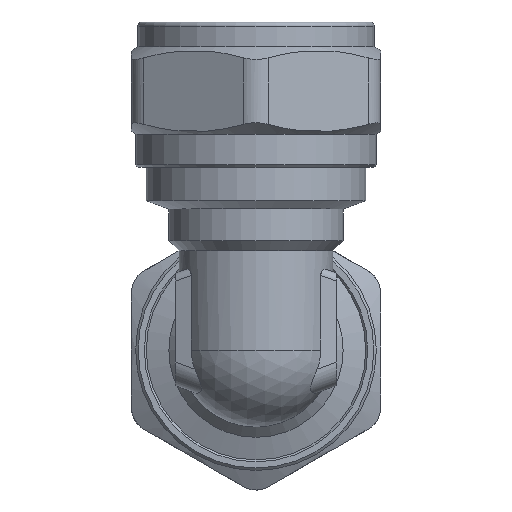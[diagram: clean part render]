
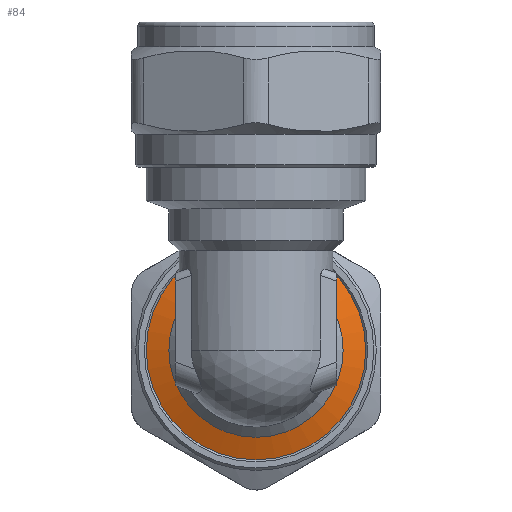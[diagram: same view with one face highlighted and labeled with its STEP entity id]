
A CAD part, front view. The second image highlights one B-rep face of the part: STEP entity #84.
In plain terms, the highlighted conical face has half-angle 70 degrees and reference radius 11.86 mm.
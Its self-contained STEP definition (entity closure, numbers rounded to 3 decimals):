
#84=ADVANCED_FACE('',(#1035,#1037),#1039,.T.);
#1035=FACE_OUTER_BOUND('',#1036,.T.);
#1036=EDGE_LOOP('',(#6066));
#1037=FACE_OUTER_BOUND('',#1038,.T.);
#1038=EDGE_LOOP('',(#6067));
#1039=CONICAL_SURFACE('',#1040,11.86,1.222);
#1040=AXIS2_PLACEMENT_3D('',#1041,#1042,#1043);
#1041=CARTESIAN_POINT('',(0.,17.505,0.));
#1042=DIRECTION('',(0.,1.,0.));
#1043=DIRECTION('',(-1.,0.,0.));
#6066=ORIENTED_EDGE('',*,*,#10766,.T.);
#6067=ORIENTED_EDGE('',*,*,#10589,.T.);
#10589=EDGE_CURVE('',#12508,#12508,#12509,.F.);
#10766=EDGE_CURVE('',#12853,#12853,#12854,.T.);
#12508=VERTEX_POINT('',#15791);
#12509=CIRCLE('',#15792,13.221);
#12853=VERTEX_POINT('',#17174);
#12854=CIRCLE('',#17175,10.5);
#15791=CARTESIAN_POINT('',(-13.221,18.,0.));
#15792=AXIS2_PLACEMENT_3D('',#15793,#15794,#15795);
#15793=CARTESIAN_POINT('',(0.,18.,0.));
#15794=DIRECTION('',(0.,1.,0.));
#15795=DIRECTION('',(-1.,0.,0.));
#17174=CARTESIAN_POINT('',(-10.5,17.01,0.));
#17175=AXIS2_PLACEMENT_3D('',#17176,#17177,#17178);
#17176=CARTESIAN_POINT('',(0.,17.01,0.));
#17177=DIRECTION('',(0.,1.,0.));
#17178=DIRECTION('',(-1.,0.,0.));
